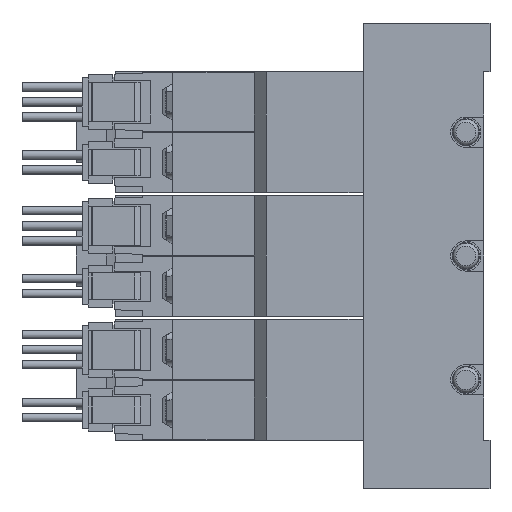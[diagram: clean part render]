
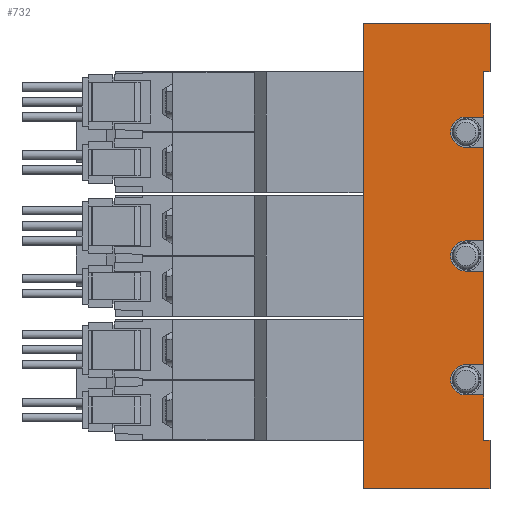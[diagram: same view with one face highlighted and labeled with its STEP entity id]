
A CAD part, left-side view. The second image highlights one B-rep face of the part: STEP entity #732.
In plain terms, the highlighted planar face has unit normal (-1, 0, 0) as drawn and (1, 0, 0) by its records, which use the part's own axes.
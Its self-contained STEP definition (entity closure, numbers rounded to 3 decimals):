
#732=ADVANCED_FACE('',(#1515),#1516,.F.);
#1515=FACE_OUTER_BOUND('',#2385,.T.);
#1516=PLANE('',#2386);
#2385=EDGE_LOOP('',(#5253,#5254,#5255,#5256,#5257,#5258,#5259,#5260,#5261,#5262,#5263,#5264,#5265,#5266,#5267,#5268,#5269,#5270,#5271,#5272));
#2386=AXIS2_PLACEMENT_3D('',#5273,#5274,#5275);
#5253=ORIENTED_EDGE('',*,*,#6418,.T.);
#5254=ORIENTED_EDGE('',*,*,#6460,.T.);
#5255=ORIENTED_EDGE('',*,*,#6456,.F.);
#5256=ORIENTED_EDGE('',*,*,#6392,.F.);
#5257=ORIENTED_EDGE('',*,*,#6461,.T.);
#5258=ORIENTED_EDGE('',*,*,#6406,.T.);
#5259=ORIENTED_EDGE('',*,*,#6448,.T.);
#5260=ORIENTED_EDGE('',*,*,#6427,.F.);
#5261=ORIENTED_EDGE('',*,*,#6462,.F.);
#5262=ORIENTED_EDGE('',*,*,#6379,.F.);
#5263=ORIENTED_EDGE('',*,*,#6447,.T.);
#5264=ORIENTED_EDGE('',*,*,#6463,.F.);
#5265=ORIENTED_EDGE('',*,*,#6464,.F.);
#5266=ORIENTED_EDGE('',*,*,#6465,.F.);
#5267=ORIENTED_EDGE('',*,*,#6443,.T.);
#5268=ORIENTED_EDGE('',*,*,#6449,.F.);
#5269=ORIENTED_EDGE('',*,*,#6466,.F.);
#5270=ORIENTED_EDGE('',*,*,#6467,.F.);
#5271=ORIENTED_EDGE('',*,*,#6439,.T.);
#5272=ORIENTED_EDGE('',*,*,#6468,.T.);
#5273=CARTESIAN_POINT('',(17.5,1.0,38.5));
#5274=DIRECTION('',(-1.0,0.0,0.0));
#5275=DIRECTION('',(0.0,0.0,1.0));
#6379=EDGE_CURVE('',#7880,#7881,#7882,.T.);
#6392=EDGE_CURVE('',#7905,#7907,#7908,.T.);
#6406=EDGE_CURVE('',#7933,#7931,#7934,.T.);
#6418=EDGE_CURVE('',#7956,#7957,#7958,.T.);
#6427=EDGE_CURVE('',#7973,#7974,#7975,.T.);
#6439=EDGE_CURVE('',#7994,#7992,#7995,.T.);
#6443=EDGE_CURVE('',#8002,#8000,#8003,.T.);
#6447=EDGE_CURVE('',#7880,#8008,#8010,.T.);
#6448=EDGE_CURVE('',#7931,#7974,#8011,.T.);
#6449=EDGE_CURVE('',#8012,#8000,#8013,.T.);
#6456=EDGE_CURVE('',#7907,#8022,#8024,.T.);
#6460=EDGE_CURVE('',#7957,#8022,#8031,.T.);
#6461=EDGE_CURVE('',#7905,#7933,#8032,.T.);
#6462=EDGE_CURVE('',#7881,#7973,#8033,.T.);
#6463=EDGE_CURVE('',#8034,#8008,#8035,.T.);
#6464=EDGE_CURVE('',#8036,#8034,#8037,.T.);
#6465=EDGE_CURVE('',#8002,#8036,#8038,.T.);
#6466=EDGE_CURVE('',#8039,#8012,#8040,.T.);
#6467=EDGE_CURVE('',#7994,#8039,#8041,.T.);
#6468=EDGE_CURVE('',#7992,#7956,#8042,.T.);
#7880=VERTEX_POINT('',#10332);
#7881=VERTEX_POINT('',#10333);
#7882=LINE('',#10334,#10335);
#7905=VERTEX_POINT('',#10369);
#7907=VERTEX_POINT('',#10372);
#7908=LINE('',#10373,#10374);
#7931=VERTEX_POINT('',#10405);
#7933=VERTEX_POINT('',#10408);
#7934=LINE('',#10409,#10410);
#7956=VERTEX_POINT('',#10435);
#7957=VERTEX_POINT('',#10436);
#7958=LINE('',#10437,#10438);
#7973=VERTEX_POINT('',#10455);
#7974=VERTEX_POINT('',#10456);
#7975=LINE('',#10457,#10458);
#7992=VERTEX_POINT('',#10481);
#7994=VERTEX_POINT('',#10484);
#7995=LINE('',#10485,#10486);
#8000=VERTEX_POINT('',#10493);
#8002=VERTEX_POINT('',#10496);
#8003=LINE('',#10497,#10498);
#8008=VERTEX_POINT('',#10505);
#8010=LINE('',#10508,#10509);
#8011=LINE('',#10510,#10511);
#8012=VERTEX_POINT('',#10512);
#8013=LINE('',#10513,#10514);
#8022=VERTEX_POINT('',#10526);
#8024=LINE('',#10529,#10530);
#8031=LINE('',#10537,#10538);
#8032=LINE('',#10539,#10540);
#8033=CIRCLE('',#10541,2.5);
#8034=VERTEX_POINT('',#10542);
#8035=LINE('',#10543,#10544);
#8036=VERTEX_POINT('',#10545);
#8037=CIRCLE('',#10546,2.5);
#8038=LINE('',#10547,#10548);
#8039=VERTEX_POINT('',#10549);
#8040=CIRCLE('',#10550,2.5);
#8041=LINE('',#10551,#10552);
#8042=LINE('',#10553,#10554);
#10332=CARTESIAN_POINT('',(17.5,1.0,18.0));
#10333=CARTESIAN_POINT('',(17.5,4.0,18.0));
#10334=CARTESIAN_POINT('',(17.5,1.0,18.0));
#10335=VECTOR('',#11723,1.0);
#10369=CARTESIAN_POINT('',(17.5,0.0,38.5));
#10372=CARTESIAN_POINT('',(17.5,21.0,38.5));
#10373=CARTESIAN_POINT('',(17.5,1.0,38.5));
#10374=VECTOR('',#11736,1.0);
#10405=CARTESIAN_POINT('',(17.5,1.0,30.5));
#10408=CARTESIAN_POINT('',(17.5,0.0,30.5));
#10409=CARTESIAN_POINT('',(17.5,0.0,30.5));
#10410=VECTOR('',#11758,1.0);
#10435=CARTESIAN_POINT('',(17.5,0.0,-30.5));
#10436=CARTESIAN_POINT('',(17.5,0.0,-38.5));
#10437=CARTESIAN_POINT('',(17.5,0.0,-30.5));
#10438=VECTOR('',#11786,1.0);
#10455=CARTESIAN_POINT('',(17.5,4.0,23.0));
#10456=CARTESIAN_POINT('',(17.5,1.0,23.0));
#10457=CARTESIAN_POINT('',(17.5,1.0,23.0));
#10458=VECTOR('',#11807,1.0);
#10481=CARTESIAN_POINT('',(17.5,1.0,-30.5));
#10484=CARTESIAN_POINT('',(17.5,1.0,-23.0));
#10485=CARTESIAN_POINT('',(17.5,1.0,38.5));
#10486=VECTOR('',#11827,1.0);
#10493=CARTESIAN_POINT('',(17.5,1.0,-18.0));
#10496=CARTESIAN_POINT('',(17.5,1.0,-2.5));
#10497=CARTESIAN_POINT('',(17.5,1.0,38.5));
#10498=VECTOR('',#11831,1.0);
#10505=CARTESIAN_POINT('',(17.5,1.0,2.5));
#10508=CARTESIAN_POINT('',(17.5,1.0,38.5));
#10509=VECTOR('',#11835,1.0);
#10510=CARTESIAN_POINT('',(17.5,1.0,38.5));
#10511=VECTOR('',#11836,1.0);
#10512=CARTESIAN_POINT('',(17.5,4.0,-18.0));
#10513=CARTESIAN_POINT('',(17.5,1.0,-18.0));
#10514=VECTOR('',#11837,1.0);
#10526=CARTESIAN_POINT('',(17.5,21.0,-38.5));
#10529=CARTESIAN_POINT('',(17.5,21.0,38.5));
#10530=VECTOR('',#11848,1.0);
#10537=CARTESIAN_POINT('',(17.5,1.0,-38.5));
#10538=VECTOR('',#11858,1.0);
#10539=CARTESIAN_POINT('',(17.5,0.0,38.5));
#10540=VECTOR('',#11859,1.0);
#10541=AXIS2_PLACEMENT_3D('',#11860,#11861,#11862);
#10542=CARTESIAN_POINT('',(17.5,4.0,2.5));
#10543=CARTESIAN_POINT('',(17.5,1.0,2.5));
#10544=VECTOR('',#11863,1.0);
#10545=CARTESIAN_POINT('',(17.5,4.0,-2.5));
#10546=AXIS2_PLACEMENT_3D('',#11864,#11865,#11866);
#10547=CARTESIAN_POINT('',(17.5,1.0,-2.5));
#10548=VECTOR('',#11867,1.0);
#10549=CARTESIAN_POINT('',(17.5,4.0,-23.0));
#10550=AXIS2_PLACEMENT_3D('',#11868,#11869,#11870);
#10551=CARTESIAN_POINT('',(17.5,1.0,-23.0));
#10552=VECTOR('',#11871,1.0);
#10553=CARTESIAN_POINT('',(17.5,4.0,-30.5));
#10554=VECTOR('',#11872,1.0);
#11723=DIRECTION('',(0.0,1.0,0.0));
#11736=DIRECTION('',(0.0,1.0,0.0));
#11758=DIRECTION('',(0.0,1.0,0.0));
#11786=DIRECTION('',(0.0,0.0,-1.0));
#11807=DIRECTION('',(0.0,-1.0,0.0));
#11827=DIRECTION('',(0.0,0.0,-1.0));
#11831=DIRECTION('',(0.0,0.0,-1.0));
#11835=DIRECTION('',(0.0,0.0,-1.0));
#11836=DIRECTION('',(0.0,0.0,-1.0));
#11837=DIRECTION('',(0.0,-1.0,0.0));
#11848=DIRECTION('',(0.0,0.0,-1.0));
#11858=DIRECTION('',(0.0,1.0,0.0));
#11859=DIRECTION('',(0.0,0.0,-1.0));
#11860=CARTESIAN_POINT('',(17.5,4.0,20.5));
#11861=DIRECTION('',(1.0,0.0,-0.0));
#11862=DIRECTION('',(0.0,0.0,1.0));
#11863=DIRECTION('',(0.0,-1.0,0.0));
#11864=CARTESIAN_POINT('',(17.5,4.0,0.0));
#11865=DIRECTION('',(1.0,0.0,-0.0));
#11866=DIRECTION('',(0.0,0.0,1.0));
#11867=DIRECTION('',(0.0,1.0,0.0));
#11868=CARTESIAN_POINT('',(17.5,4.0,-20.5));
#11869=DIRECTION('',(1.0,0.0,-0.0));
#11870=DIRECTION('',(0.0,0.0,1.0));
#11871=DIRECTION('',(0.0,1.0,0.0));
#11872=DIRECTION('',(0.0,-1.0,0.0));
